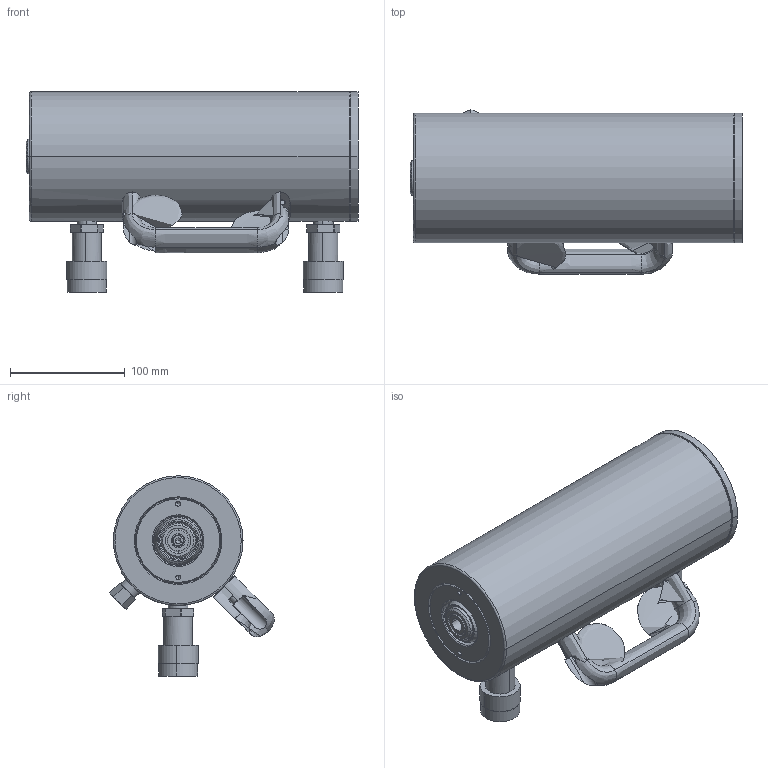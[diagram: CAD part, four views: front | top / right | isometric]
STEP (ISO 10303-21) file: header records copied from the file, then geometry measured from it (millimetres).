
FILE_DESCRIPTION((''),'2;1');
FILE_NAME('RAR-206','2015-08-26T',('mike.ward'),(''),'PRO/ENGINEER BY PARAMETRIC TECHNOLOGY CORPORATION, 2014200','PRO/ENGINEER BY PARAMETRIC TECHNOLOGY CORPORATION, 2014200','');
FILE_SCHEMA(('CONFIG_CONTROL_DESIGN'));
Length unit declared in the file: inch
Products named in the file (1): RAR-206
Bounding box: 289.2 x 143.48 x 174.61 mm (x, y, z)
Surface area: 259114.5 mm2 (no closed solid volume)
Topology: 0 solids, 34 shells, 370 faces, 977 edges, 636 vertices
Faces by surface type: plane 136, cylinder 99, cone 99, torus 16, extrusion 12, revolution 8
Entity records: 12159 total; most frequent: CARTESIAN_POINT 2964, DIRECTION 2039, ORIENTED_EDGE 1678, EDGE_CURVE 953, AXIS2_PLACEMENT_3D 784, VERTEX_POINT 636, VECTOR 463, LINE 451
